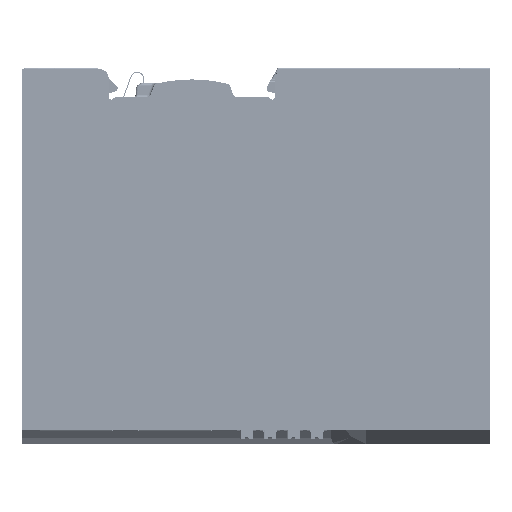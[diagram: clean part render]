
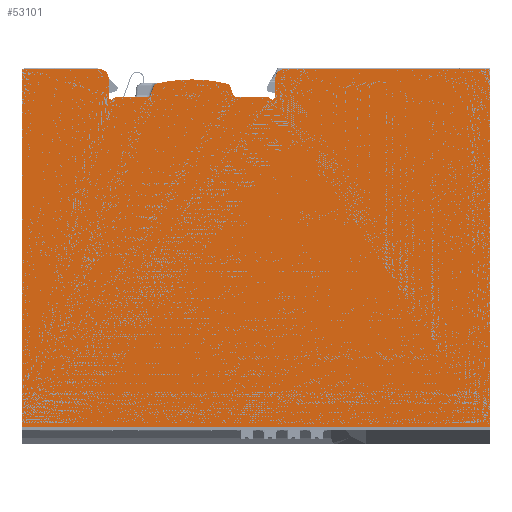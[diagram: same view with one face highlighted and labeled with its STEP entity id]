
A CAD part, front view. The second image highlights one B-rep face of the part: STEP entity #53101.
In plain terms, the highlighted planar face has unit normal (0, -1, 0) as drawn and (-1, 0, 0) by its records, which use the part's own axes.
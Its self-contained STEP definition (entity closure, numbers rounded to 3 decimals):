
#45539=CARTESIAN_POINT('',(236.763,40.001,
-50.));
#45541=DIRECTION('',(0.,-1.,0.));
#45542=VECTOR('',#45541,76.511);
#45543=CARTESIAN_POINT('',(236.763,40.001,
-50.));
#45544=LINE('',#45543,#45542);
#46174=DIRECTION('',(0.,1.,0.));
#46175=VECTOR('',#46174,76.511);
#46176=CARTESIAN_POINT('',(236.763,-36.51,
50.));
#46177=LINE('',#46176,#46175);
#46482=DIRECTION('',(0.,0.,1.));
#46483=VECTOR('',#46482,100.);
#46484=CARTESIAN_POINT('',(236.763,-36.51,
-50.));
#46485=LINE('',#46484,#46483);
#46550=DIRECTION('',(0.,0.,1.));
#46551=VECTOR('',#46550,43.929);
#46552=CARTESIAN_POINT('',(236.763,40.,6.071));
#46553=LINE('',#46552,#46551);
#46554=DIRECTION('',(0.,0.,1.));
#46555=VECTOR('',#46554,16.529);
#46556=CARTESIAN_POINT('',(236.763,40.001,
-50.));
#46557=LINE('',#46556,#46555);
#46558=CARTESIAN_POINT('',(236.763,38.,
-33.47));
#46559=DIRECTION('',(1.,0.,0.));
#46560=DIRECTION('',(0.,1.,-0.001));
#46561=AXIS2_PLACEMENT_3D('',#46558,#46559,#46560);
#46563=DIRECTION('',(0.,-1.,0.017));
#46564=VECTOR('',#46563,4.044);
#46565=CARTESIAN_POINT('',(236.763,38.035,
-31.47));
#46566=LINE('',#46565,#46564);
#46567=CARTESIAN_POINT('',(236.763,34.,
-30.9));
#46568=DIRECTION('',(-1.,0.,0.));
#46569=DIRECTION('',(0.,-0.017,-1.));
#46570=AXIS2_PLACEMENT_3D('',#46567,#46568,#46569);
#46572=CARTESIAN_POINT('',(236.763,33.2,
-29.875));
#46573=DIRECTION('',(1.,0.,0.));
#46574=DIRECTION('',(0.,0.615,-0.788));
#46575=AXIS2_PLACEMENT_3D('',#46572,#46573,#46574);
#46577=DIRECTION('',(0.,0.,1.));
#46578=VECTOR('',#46577,6.605);
#46579=CARTESIAN_POINT('',(236.763,34.,
-29.875));
#46580=LINE('',#46579,#46578);
#46581=CARTESIAN_POINT('',(236.763,34.8,
-23.27));
#46582=DIRECTION('',(-1.,0.,0.));
#46583=DIRECTION('',(0.,-1.,0.));
#46584=AXIS2_PLACEMENT_3D('',#46581,#46582,#46583);
#46586=DIRECTION('',(0.,0.94,0.342));
#46587=VECTOR('',#46586,1.97);
#46588=CARTESIAN_POINT('',(236.763,34.526,
-22.519));
#46589=LINE('',#46588,#46587);
#46590=CARTESIAN_POINT('',(236.763,36.104,
-21.093));
#46591=DIRECTION('',(1.,0.,0.));
#46592=DIRECTION('',(0.,0.342,-0.94));
#46593=AXIS2_PLACEMENT_3D('',#46590,#46591,#46592);
#46595=CARTESIAN_POINT('',(236.763,6.05,
-13.7));
#46596=DIRECTION('',(1.,0.,0.));
#46597=DIRECTION('',(0.,0.971,-0.239));
#46598=AXIS2_PLACEMENT_3D('',#46595,#46596,#46597);
#46600=CARTESIAN_POINT('',(236.763,6.05,
-13.7));
#46601=DIRECTION('',(1.,0.,0.));
#46602=DIRECTION('',(0.,1.,0.));
#46603=AXIS2_PLACEMENT_3D('',#46600,#46601,#46602);
#46605=CARTESIAN_POINT('',(236.763,36.104,
-6.307));
#46606=DIRECTION('',(1.,0.,0.));
#46607=DIRECTION('',(0.,0.971,0.239));
#46608=AXIS2_PLACEMENT_3D('',#46605,#46606,#46607);
#46610=DIRECTION('',(0.,-0.94,0.342));
#46611=VECTOR('',#46610,1.97);
#46612=CARTESIAN_POINT('',(236.763,36.378,
-5.555));
#46613=LINE('',#46612,#46611);
#46614=CARTESIAN_POINT('',(236.763,34.8,
-4.13));
#46615=DIRECTION('',(-1.,0.,0.));
#46616=DIRECTION('',(0.,-0.342,-0.94));
#46617=AXIS2_PLACEMENT_3D('',#46614,#46615,#46616);
#46619=DIRECTION('',(0.,0.,1.));
#46620=VECTOR('',#46619,6.605);
#46621=CARTESIAN_POINT('',(236.763,34.,
-4.13));
#46622=LINE('',#46621,#46620);
#46623=CARTESIAN_POINT('',(236.763,33.2,2.475));
#46624=DIRECTION('',(1.,0.,0.));
#46625=DIRECTION('',(0.,1.,0.));
#46626=AXIS2_PLACEMENT_3D('',#46623,#46624,#46625);
#46628=CARTESIAN_POINT('',(236.763,34.,3.5));
#46629=DIRECTION('',(-1.,0.,0.));
#46630=DIRECTION('',(0.,-0.615,-0.788));
#46631=AXIS2_PLACEMENT_3D('',#46628,#46629,#46630);
#46633=DIRECTION('',(0.,1.,0.017));
#46634=VECTOR('',#46633,4.044);
#46635=CARTESIAN_POINT('',(236.763,33.991,4.));
#46636=LINE('',#46635,#46634);
#46637=CARTESIAN_POINT('',(236.763,38.,6.07));
#46638=DIRECTION('',(1.,0.,0.));
#46639=DIRECTION('',(0.,0.017,-1.));
#46640=AXIS2_PLACEMENT_3D('',#46637,#46638,#46639);
#50517=VERTEX_POINT('',#45539);
#50518=CARTESIAN_POINT('',(236.763,-36.51,
-50.));
#50519=VERTEX_POINT('',#50518);
#50858=CARTESIAN_POINT('',(236.763,-36.51,
50.));
#50859=VERTEX_POINT('',#50858);
#50860=CARTESIAN_POINT('',(236.763,40.001,50.));
#50861=VERTEX_POINT('',#50860);
#51057=CARTESIAN_POINT('',(236.763,40.,6.071));
#51058=VERTEX_POINT('',#51057);
#51059=CARTESIAN_POINT('',(236.763,40.,
-33.471));
#51060=VERTEX_POINT('',#51059);
#51061=CARTESIAN_POINT('',(236.763,38.035,
-31.47));
#51062=VERTEX_POINT('',#51061);
#51063=CARTESIAN_POINT('',(236.763,33.991,
-31.4));
#51064=VERTEX_POINT('',#51063);
#51065=CARTESIAN_POINT('',(236.763,33.692,
-30.506));
#51066=VERTEX_POINT('',#51065);
#51067=CARTESIAN_POINT('',(236.763,34.,
-29.875));
#51068=VERTEX_POINT('',#51067);
#51069=CARTESIAN_POINT('',(236.763,34.,
-23.27));
#51070=VERTEX_POINT('',#51069);
#51071=CARTESIAN_POINT('',(236.763,34.526,
-22.519));
#51072=VERTEX_POINT('',#51071);
#51073=CARTESIAN_POINT('',(236.763,36.378,
-21.845));
#51074=VERTEX_POINT('',#51073);
#51075=CARTESIAN_POINT('',(236.763,36.881,
-21.284));
#51076=VERTEX_POINT('',#51075);
#51077=CARTESIAN_POINT('',(236.763,37.8,
-13.7));
#51078=VERTEX_POINT('',#51077);
#51079=CARTESIAN_POINT('',(236.763,36.881,
-6.116));
#51080=VERTEX_POINT('',#51079);
#51081=CARTESIAN_POINT('',(236.763,36.378,
-5.555));
#51082=VERTEX_POINT('',#51081);
#51083=CARTESIAN_POINT('',(236.763,34.526,
-4.881));
#51084=VERTEX_POINT('',#51083);
#51085=CARTESIAN_POINT('',(236.763,34.,
-4.13));
#51086=VERTEX_POINT('',#51085);
#51087=CARTESIAN_POINT('',(236.763,34.,2.475));
#51088=VERTEX_POINT('',#51087);
#51089=CARTESIAN_POINT('',(236.763,33.692,3.106));
#51090=VERTEX_POINT('',#51089);
#51091=CARTESIAN_POINT('',(236.763,33.991,4.));
#51092=VERTEX_POINT('',#51091);
#51093=CARTESIAN_POINT('',(236.763,38.035,4.07));
#51094=VERTEX_POINT('',#51093);
#53051=CARTESIAN_POINT('',(236.763,40.,
-50.));
#53052=DIRECTION('',(-1.,0.,0.));
#53053=DIRECTION('',(0.,1.,0.));
#53054=AXIS2_PLACEMENT_3D('',#53051,#53052,#53053);
#53055=PLANE('',#53054);
#53057=ORIENTED_EDGE('',*,*,#53056,.T.);
#53058=ORIENTED_EDGE('',*,*,#52649,.F.);
#53059=ORIENTED_EDGE('',*,*,#52991,.F.);
#53060=ORIENTED_EDGE('',*,*,#51916,.F.);
#53062=ORIENTED_EDGE('',*,*,#53061,.T.);
#53064=ORIENTED_EDGE('',*,*,#53063,.T.);
#53066=ORIENTED_EDGE('',*,*,#53065,.T.);
#53068=ORIENTED_EDGE('',*,*,#53067,.T.);
#53070=ORIENTED_EDGE('',*,*,#53069,.T.);
#53072=ORIENTED_EDGE('',*,*,#53071,.T.);
#53074=ORIENTED_EDGE('',*,*,#53073,.T.);
#53076=ORIENTED_EDGE('',*,*,#53075,.T.);
#53078=ORIENTED_EDGE('',*,*,#53077,.T.);
#53080=ORIENTED_EDGE('',*,*,#53079,.T.);
#53082=ORIENTED_EDGE('',*,*,#53081,.T.);
#53084=ORIENTED_EDGE('',*,*,#53083,.T.);
#53086=ORIENTED_EDGE('',*,*,#53085,.T.);
#53088=ORIENTED_EDGE('',*,*,#53087,.T.);
#53090=ORIENTED_EDGE('',*,*,#53089,.T.);
#53092=ORIENTED_EDGE('',*,*,#53091,.T.);
#53094=ORIENTED_EDGE('',*,*,#53093,.T.);
#53096=ORIENTED_EDGE('',*,*,#53095,.T.);
#53098=ORIENTED_EDGE('',*,*,#53097,.T.);
#53099=EDGE_LOOP('',(#53057,#53058,#53059,#53060,#53062,#53064,#53066,#53068,
#53070,#53072,#53074,#53076,#53078,#53080,#53082,#53084,#53086,#53088,#53090,
#53092,#53094,#53096,#53098));
#53100=FACE_OUTER_BOUND('',#53099,.F.);
#53101=ADVANCED_FACE('',(#53100),#53055,.T.);
#46562=CIRCLE('',#46561,2.);
#46571=CIRCLE('',#46570,0.5);
#46576=CIRCLE('',#46575,0.8);
#46585=CIRCLE('',#46584,0.8);
#46594=CIRCLE('',#46593,0.8);
#46599=CIRCLE('',#46598,31.75);
#46604=CIRCLE('',#46603,31.75);
#46609=CIRCLE('',#46608,0.8);
#46618=CIRCLE('',#46617,0.8);
#46627=CIRCLE('',#46626,0.8);
#46632=CIRCLE('',#46631,0.5);
#46641=CIRCLE('',#46640,2.);
#51916=EDGE_CURVE('',#50517,#50519,#45544,.T.);
#52649=EDGE_CURVE('',#50859,#50861,#46177,.T.);
#52991=EDGE_CURVE('',#50519,#50859,#46485,.T.);
#53056=EDGE_CURVE('',#51058,#50861,#46553,.T.);
#53061=EDGE_CURVE('',#50517,#51060,#46557,.T.);
#53063=EDGE_CURVE('',#51060,#51062,#46562,.T.);
#53065=EDGE_CURVE('',#51062,#51064,#46566,.T.);
#53067=EDGE_CURVE('',#51064,#51066,#46571,.T.);
#53069=EDGE_CURVE('',#51066,#51068,#46576,.T.);
#53071=EDGE_CURVE('',#51068,#51070,#46580,.T.);
#53073=EDGE_CURVE('',#51070,#51072,#46585,.T.);
#53075=EDGE_CURVE('',#51072,#51074,#46589,.T.);
#53077=EDGE_CURVE('',#51074,#51076,#46594,.T.);
#53079=EDGE_CURVE('',#51076,#51078,#46599,.T.);
#53081=EDGE_CURVE('',#51078,#51080,#46604,.T.);
#53083=EDGE_CURVE('',#51080,#51082,#46609,.T.);
#53085=EDGE_CURVE('',#51082,#51084,#46613,.T.);
#53087=EDGE_CURVE('',#51084,#51086,#46618,.T.);
#53089=EDGE_CURVE('',#51086,#51088,#46622,.T.);
#53091=EDGE_CURVE('',#51088,#51090,#46627,.T.);
#53093=EDGE_CURVE('',#51090,#51092,#46632,.T.);
#53095=EDGE_CURVE('',#51092,#51094,#46636,.T.);
#53097=EDGE_CURVE('',#51094,#51058,#46641,.T.);
